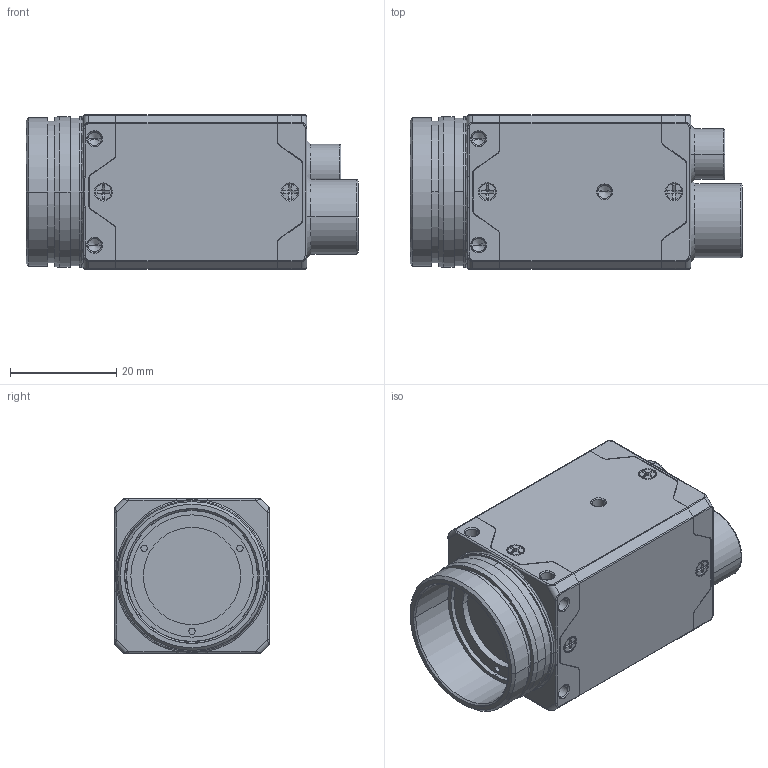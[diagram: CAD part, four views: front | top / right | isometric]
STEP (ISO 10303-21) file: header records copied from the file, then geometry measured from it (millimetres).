
FILE_DESCRIPTION((''),'2;1');
FILE_NAME('00-MV-CT050G-24GMC01-PRO_ASM','2025-10-28T09:29:00',('xujianping6'),(''),'CREO PARAMETRIC BY PTC INC, 2020044','CREO PARAMETRIC BY PTC INC, 2020044','');
FILE_SCHEMA(('CONFIG_CONTROL_DESIGN'));
Products named in the file (18): DE-14-074746; LVGUANGPIAN; DE-14-073518; MV-20575-REV11_ASM; QIANDUANZUJIAN-NEW_ASM; DE-14-074747; WAIKEZUJIAN-NEW_ASM; DE-14-074748; D-01-35-26-0837; SC-T1M2X4NL-B; PCB-MV-23517-REV10; SGN-M12-NEW3-20241128; SGN-M8-NEWS5-20241205; MV-23517-REV10_ASM; MV-ZHUBAN-REV10_ASM; HOUGAIZUJIAN-NEW_ASM; DE-1F-000047; 00-MV-CT050G-24GMC01-PRO_ASM
Assembly tree (24 placements, depth 5):
  00-MV-CT050G-24GMC01-PRO_ASM
    QIANDUANZUJIAN-NEW_ASM
      DE-14-074746
      LVGUANGPIAN
      DE-14-073518
      MV-20575-REV11_ASM
    WAIKEZUJIAN-NEW_ASM
      DE-14-074747
    HOUGAIZUJIAN-NEW_ASM
      DE-14-074748
      D-01-35-26-0837
      SC-T1M2X4NL-B
      MV-ZHUBAN-REV10_ASM
        MV-23517-REV10_ASM
          PCB-MV-23517-REV10
          SGN-M12-NEW3-20241128
          SGN-M8-NEWS5-20241205
    DE-1F-000047  x8
Bounding box: 62.46 x 29 x 29 mm (x, y, z)
Volume: 17000.1 mm3; surface area: 26203.4 mm2
Topology: 18 solids, 82 shells, 2863 faces, 7461 edges, 4755 vertices
Faces by surface type: plane 1182, cylinder 1161, cone 356, torus 94, bspline 64, sphere 6
Entity records: 85580 total; most frequent: CARTESIAN_POINT 20497, DIRECTION 14216, ORIENTED_EDGE 13258, EDGE_CURVE 6693, AXIS2_PLACEMENT_3D 5470, VERTEX_POINT 4342, VECTOR 3276, LINE 3276
